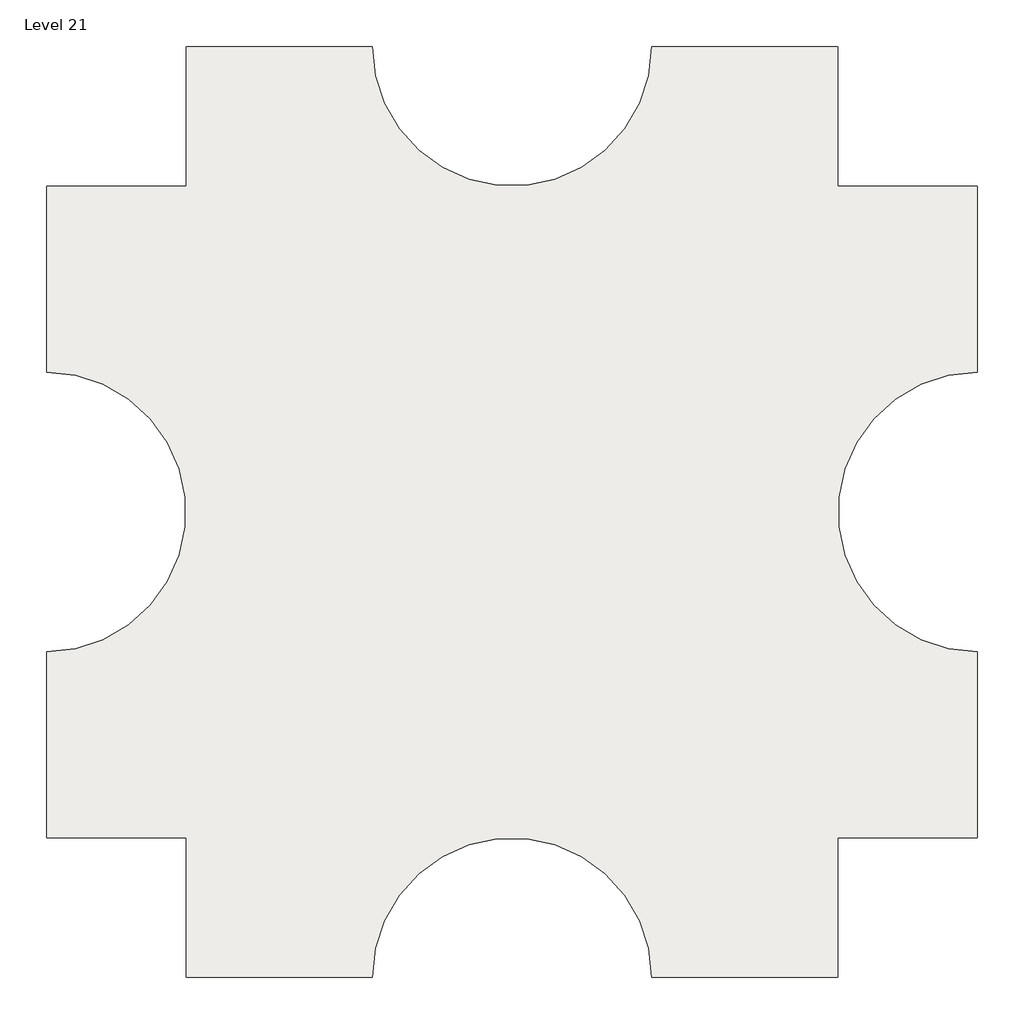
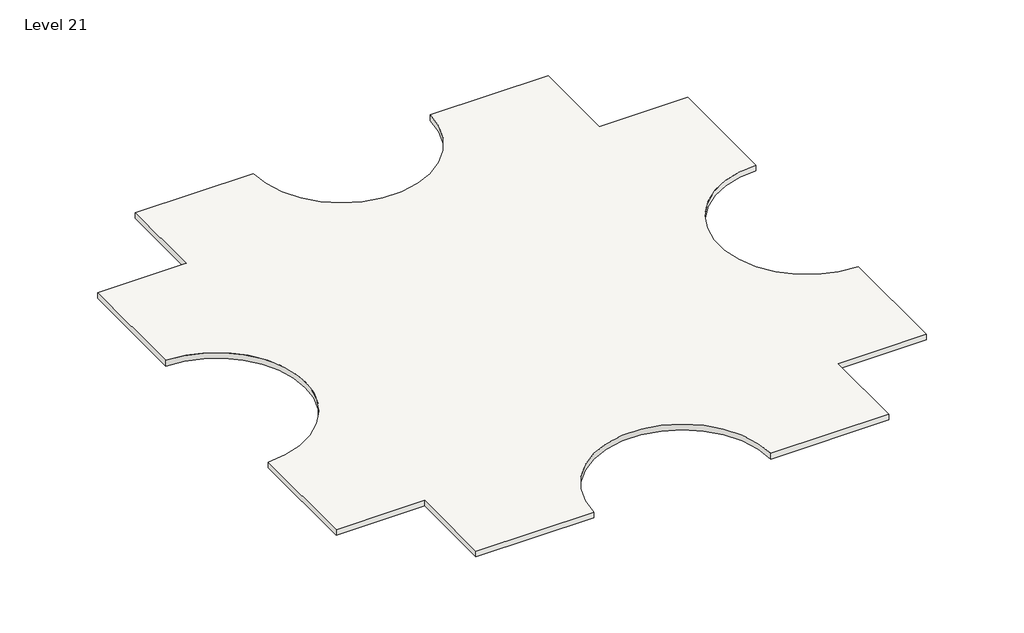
# One storey: 1 slab.
"""IFC4 building model written with IfcOpenShell, lengths in millimetres."""

import ifcopenshell
import ifcopenshell.guid

model = None  # the IFC model being written
_history = None  # IfcOwnerHistory: only IFC2X3 demands one
_inside = {}  # id of a spatial element -> (the spatial element, [elements in it])
_under = {}  # id of a project, library or spatial element -> (it, [spatial elements below it])
_declared = {}  # id of a project -> (the project, [libraries it declares])
_typed = {}  # id of a type object -> (the type object, [elements of that type])
_made_of = {}  # id of a material, layer set ... -> (it, [elements and type objects made of it])


def new_model(schema):
    """Start an empty IFC model of exactly this schema.

    Asked for "IFC4X3", IfcOpenShell would pick the latest addendum, in which some entities
    have other attributes; the version numbers below select the first issue.
    IFC2X3 requires an IfcOwnerHistory on every rooted entity: one is made here for all.
    """
    global model, _history
    if schema == "IFC4X3":
        model = ifcopenshell.file(schema_version=(4, 3, 0, 0))
    else:
        model = ifcopenshell.file(schema=schema)
    _inside.clear()
    _under.clear()
    _declared.clear()
    _typed.clear()
    _made_of.clear()
    _history = None
    if model.schema == "IFC2X3":
        org = make("IfcOrganization", Name="unknown")
        user = make(
            "IfcPersonAndOrganization",
            ThePerson=make("IfcPerson", FamilyName="unknown"),
            TheOrganization=org,
        )
        app = make(
            "IfcApplication",
            ApplicationDeveloper=org,
            Version="unknown",
            ApplicationFullName="unknown",
            ApplicationIdentifier="unknown",
        )
        _history = make(
            "IfcOwnerHistory",
            OwningUser=user,
            OwningApplication=app,
            ChangeAction="ADDED",
            CreationDate=0,
        )
    return model


def make(cls, **values):
    """One entity of the class cls with the attributes given. An attribute that is None is left unset."""
    return model.create_entity(
        cls, **{name: value for name, value in values.items() if value is not None}
    )


def rooted(cls, **values):
    """An entity with a GlobalId (a new one), such as an element, a storey or a relation."""
    return make(cls, GlobalId=ifcopenshell.guid.new(), OwnerHistory=_history, **values)


def si_unit(unit_type, name, prefix=None):
    """IfcSIUnit, for example si_unit("LENGTHUNIT", "METRE", prefix="MILLI")."""
    return make("IfcSIUnit", UnitType=unit_type, Prefix=prefix, Name=name)


def assignment(units):
    """IfcUnitAssignment: the units of a project."""
    return None if units is None else make("IfcUnitAssignment", Units=units)


def point(xyz):
    """IfcCartesianPoint."""
    return None if xyz is None else make("IfcCartesianPoint", Coordinates=xyz)


def direction(xyz):
    """IfcDirection."""
    return None if xyz is None else make("IfcDirection", DirectionRatios=xyz)


def frame(location, z_axis=None, x_axis=None):
    """IfcAxis2Placement3D, a coordinate frame: its origin and axes. An axis left out is left unset."""
    return make(
        "IfcAxis2Placement3D",
        Location=point(location),
        Axis=direction(z_axis),
        RefDirection=direction(x_axis),
    )


def frame_2d(location, x_axis=None):
    """IfcAxis2Placement2D, a coordinate frame in the plane: its origin and x axis."""
    return make(
        "IfcAxis2Placement2D", Location=point(location), RefDirection=direction(x_axis)
    )


def origin():
    """The frame at (0, 0, 0) with its axes left unset."""
    return frame((0.0, 0.0, 0.0))


def place(relative_to, where):
    """IfcLocalPlacement: puts the frame where relative to a parent placement (None: the world)."""
    return make(
        "IfcLocalPlacement", PlacementRelTo=relative_to, RelativePlacement=where
    )


def context(
    kind, dimensions, precision=None, world=None, true_north=None, identifier=None
):
    """IfcGeometricRepresentationContext, for example the 3D "Model" context."""
    return make(
        "IfcGeometricRepresentationContext",
        ContextIdentifier=identifier,
        ContextType=kind,
        CoordinateSpaceDimension=dimensions,
        Precision=precision,
        WorldCoordinateSystem=world,
        TrueNorth=true_north,
    )


def project(units=None, contexts=None):
    """IfcProject with its units and contexts."""
    return rooted(
        "IfcProject",
        Name="project",
        RepresentationContexts=contexts,
        UnitsInContext=assignment(units),
    )


def spatial(cls, under=None, at=None, **own):
    """A site, building, storey or space (cls), placed at a placement, below another one or the project."""
    s = rooted(cls, ObjectPlacement=at, **own)
    if under is not None:
        _under.setdefault(under.id(), (under, []))[1].append(s)
    return s


def polyline(points):
    """IfcPolyline through the points."""
    return make("IfcPolyline", Points=[point(p) for p in points])


def circle_curve(where, radius):
    """IfcCircle in the frame where."""
    return make("IfcCircle", Position=where, Radius=radius)


def trimmed(basis, trim1, trim2, sense, master):
    """IfcTrimmedCurve: the piece of a basis curve between two trims."""
    return make(
        "IfcTrimmedCurve",
        BasisCurve=basis,
        Trim1=trim1,
        Trim2=trim2,
        SenseAgreement=sense,
        MasterRepresentation=master,
    )


def segment(curve, same_sense, transition):
    """IfcCompositeCurveSegment."""
    return make(
        "IfcCompositeCurveSegment",
        Transition=transition,
        SameSense=same_sense,
        ParentCurve=curve,
    )


def composite_curve(segments, self_intersect=None):
    """IfcCompositeCurve: segments joined end to end."""
    return make("IfcCompositeCurve", Segments=segments, SelfIntersect=self_intersect)


def outline(outer, holes=None, kind="AREA"):
    """IfcArbitraryClosedProfileDef: a profile drawn as a closed curve; with holes, ...WithVoids."""
    if holes is None:
        return make("IfcArbitraryClosedProfileDef", ProfileType=kind, OuterCurve=outer)
    return make(
        "IfcArbitraryProfileDefWithVoids",
        ProfileType=kind,
        OuterCurve=outer,
        InnerCurves=holes,
    )


def extrude(swept, where, along, depth):
    """IfcExtrudedAreaSolid: the profile swept, set in the frame where, extruded along a direction by depth."""
    return make(
        "IfcExtrudedAreaSolid",
        SweptArea=swept,
        Position=where,
        ExtrudedDirection=direction(along),
        Depth=depth,
    )


def shape(context_of_items, identifier, shape_type, items):
    """IfcShapeRepresentation: the items that make up one representation, for example the "Body"."""
    return make(
        "IfcShapeRepresentation",
        ContextOfItems=context_of_items,
        RepresentationIdentifier=identifier,
        RepresentationType=shape_type,
        Items=items,
    )


def made_of(thing, what):
    """Note that an element or type object is made of a material, layer set ...; save() writes the relation."""
    if what is not None:
        _made_of.setdefault(what.id(), (what, []))[1].append(thing)
    return thing


def element(
    cls,
    number,
    at=None,
    inside=None,
    cuts=None,
    type_object=None,
    material=None,
    context=None,
    identifier="Body",
    shape_type=None,
    held_by="IfcProductDefinitionShape",
    body=None,
    shapes=None,
    **own,
):
    """One element of the class cls, such as IfcWall. Its Tag is "e" and its number.

    at: its placement. inside: the storey or other place that contains it. cuts: it is an
    opening in that element (IfcRelVoidsElement). A single representation is given by context,
    identifier, shape_type and body (its items); several are given by shapes. held_by: the class
    of the entity that holds the representations. save() writes the other relations.
    """
    e = rooted(cls, Tag="e%d" % number, ObjectPlacement=at, **own)
    if body is not None:
        shapes = [shape(context, identifier, shape_type, body)]
    if shapes is not None:
        e.Representation = make(held_by, Representations=shapes)
    if inside is not None:
        _inside.setdefault(inside.id(), (inside, []))[1].append(e)
    if cuts is not None:
        rooted(
            "IfcRelVoidsElement", RelatingBuildingElement=cuts, RelatedOpeningElement=e
        )
    if type_object is not None:
        _typed.setdefault(type_object.id(), (type_object, []))[1].append(e)
    return made_of(e, material)


def aggregate(whole, parts):
    """IfcRelAggregates: a whole, such as a stair, and the parts it consists of."""
    return rooted("IfcRelAggregates", RelatingObject=whole, RelatedObjects=parts)


def save(model, path):
    """Write the relations noted so far, then the file.

    IfcRelAggregates (storeys below a building ...), IfcRelContainedInSpatialStructure (elements
    in a storey), IfcRelDefinesByType, IfcRelAssociatesMaterial and IfcRelDeclares: one each for
    every whole, place, type object, material and project.
    """
    for whole, parts in _under.values():
        aggregate(whole, parts)
    for where, things in _inside.values():
        rooted(
            "IfcRelContainedInSpatialStructure",
            RelatedElements=things,
            RelatingStructure=where,
        )
    for kind, things in _typed.values():
        rooted("IfcRelDefinesByType", RelatedObjects=things, RelatingType=kind)
    for what, things in _made_of.values():
        rooted("IfcRelAssociatesMaterial", RelatedObjects=things, RelatingMaterial=what)
    for by, libraries in _declared.values():
        rooted("IfcRelDeclares", RelatingContext=by, RelatedDefinitions=libraries)
    model.write(path)


model = new_model("IFC4")

# Units and contexts
model_context = context("Model", 3, world=origin())
ifc_project = project(units=[si_unit("LENGTHUNIT", "METRE", prefix="MILLI")], contexts=[model_context])

# Site, building, storey
site = spatial("IfcSite", under=ifc_project)
building = spatial("IfcBuilding", under=site)
storey = spatial("IfcBuildingStorey", under=building, Name="Level 21", Elevation=60960.0)

# Slab
placement = place(None, origin())
element("IfcSlab", 1, ObjectType="Generic - 12\"", at=placement, inside=storey, context=model_context, shape_type="SweptSolid", body=[
    extrude(outline(composite_curve([segment(polyline([(-7150.3629456, 4479.6634547), (-7150.3629456, 9051.6634547), (-1054.3629456, 9051.6634547)]), True, "CONTINUOUS"), segment(trimmed(circle_curve(frame_2d((3517.6370544, 9051.6634547)), 4572.0), [point((-1054.3629456, 9051.6634547))], [point((8089.6370544, 9051.6634547))], True, "CARTESIAN"), True, "CONTINUOUS"), segment(polyline([(8089.6370544, 9051.6634547), (14185.6370544, 9051.6634547), (14185.6370544, 4479.6634547), (18757.6370544, 4479.6634547), (18757.6370544, -1616.3365453)]), True, "CONTINUOUS"), segment(trimmed(circle_curve(frame_2d((18757.6370544, -6188.3365453)), 4572.0), [point((18757.6370544, -1616.3365453))], [point((18757.6370544, -10760.3365453))], True, "CARTESIAN"), True, "CONTINUOUS"), segment(polyline([(18757.6370544, -10760.3365453), (18757.6370544, -16856.3365453), (14185.6370544, -16856.3365453), (14185.6370544, -21428.3365453), (8089.6370544, -21428.3365453)]), True, "CONTINUOUS"), segment(trimmed(circle_curve(frame_2d((3517.6370544, -21428.3365453)), 4572.0), [point((8089.6370544, -21428.3365453))], [point((-1054.3629456, -21428.3365453))], True, "CARTESIAN"), True, "CONTINUOUS"), segment(polyline([(-1054.3629456, -21428.3365453), (-7150.3629456, -21428.3365453), (-7150.3629456, -16856.3365453), (-11722.3629456, -16856.3365453), (-11722.3629456, -10760.3365453)]), True, "CONTINUOUS"), segment(trimmed(circle_curve(frame_2d((-11722.3629456, -6188.3365453)), 4572.0), [point((-11722.3629456, -10760.3365453))], [point((-11722.3629456, -1616.3365453))], True, "CARTESIAN"), True, "CONTINUOUS"), segment(polyline([(-11722.3629456, -1616.3365453), (-11722.3629456, 4479.6634547), (-7150.3629456, 4479.6634547)]), True, "CONTINUOUS")], self_intersect=False)), frame((0.0, 0.0, 60655.2), z_axis=(0.0, 0.0, 1.0), x_axis=(1.0, 0.0, 0.0)), (0.0, 0.0, 1.0), 304.8),
])

save(model, "model.ifc")
